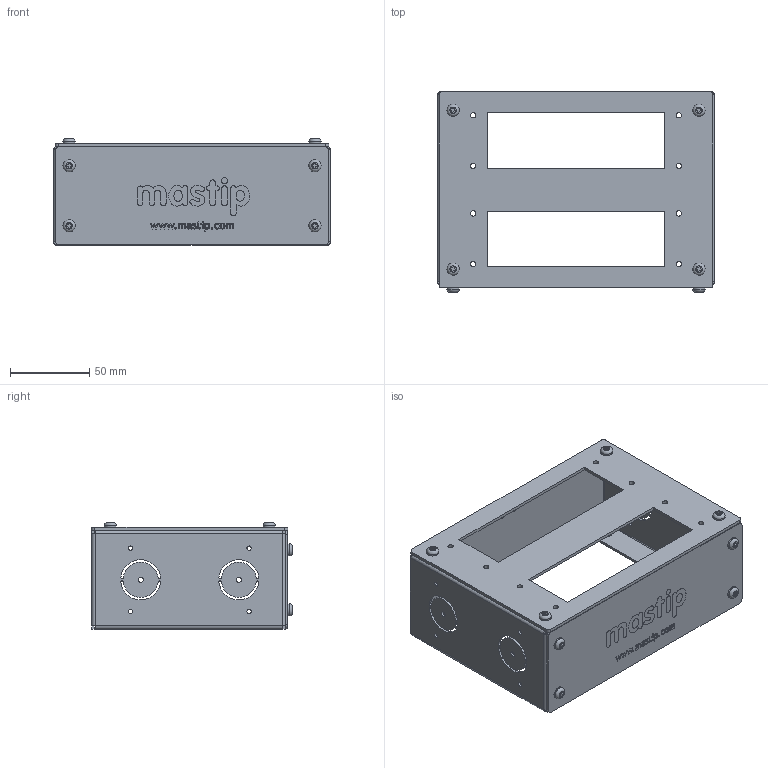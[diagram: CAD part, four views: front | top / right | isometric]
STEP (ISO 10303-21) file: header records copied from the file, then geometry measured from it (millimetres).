
FILE_DESCRIPTION(/* description */ (''),/* implementation_level */ '2;1');
FILE_NAME(/* name */ '79-010-612_TMBAssem2Row-2x24Pin.stp',/* time_stamp */ '2019-07-30T14:10:39+12:00',/* author */ (''),/* organization */ (''),/* preprocessor_version */ 'ST-DEVELOPER v16',/* originating_system */ 'SIEMENS PLM Software NX 10.0',/* authorisation */ '');
FILE_SCHEMA (('AP203_CONFIGURATION_CONTROLLED_3D_DESIGN_OF_MECHANICAL_PARTS_AND_ASSEMBLIES_MIM_LF { 1 0 10303 403 2 1 2}'));
Length unit declared in the file: millimetre
Products named in the file (1): matt1EE0728Ff9s3
Bounding box: 175 x 126.8 x 67.3 mm (x, y, z)
Volume: 101319.9 mm3; surface area: 127481.2 mm2
Topology: 19 solids, 19 shells, 723 faces, 1904 edges, 1270 vertices
Faces by surface type: plane 358, cylinder 301, extrusion 32, cone 24, torus 8
Full cylindrical faces by diameter (mm): 2.75 x16, 3.2 x4, 3.3 x8, 3.5 x8, 3.829 x1, 4 x8, 5 x8, 5.35 x8, 5.4 x8, 7 x6, 7.7 x8, 7.9 x8
Entity records: 22691 total; most frequent: CARTESIAN_POINT 5154, DIRECTION 3602, ORIENTED_EDGE 3394, EDGE_CURVE 1697, AXIS2_PLACEMENT_3D 1374, VERTEX_POINT 1188, EDGE_LOOP 1035, VECTOR 854
